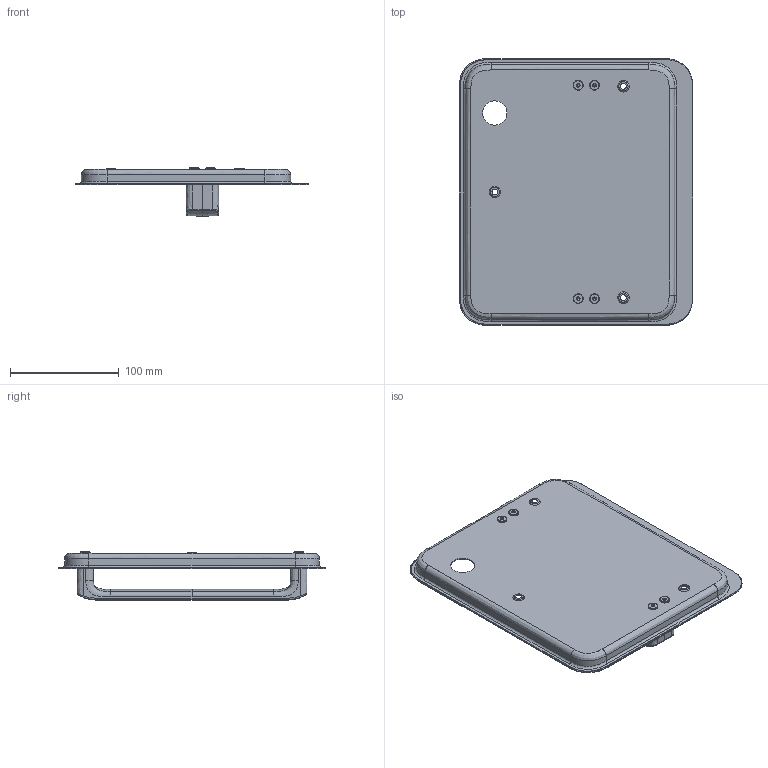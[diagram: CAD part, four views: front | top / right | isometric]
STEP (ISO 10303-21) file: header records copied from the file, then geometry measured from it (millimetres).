
FILE_DESCRIPTION(/* description */ (''),/* implementation_level */ '2;1');
FILE_NAME(/* name */ 'C:\ADSK_DMS_WS\Designs\Vorschläge\Loc Schalen\Heusser Muschel\Heusser-Muschel mit D6\Heusser-Muschel S9.13 mit D6\S9.13.D6.294R..stp',/* time_stamp */ '2025-04-14T08:41:13+02:00',/* author */ ('gm'),/* organization */ (''),/* preprocessor_version */ 'ST-DEVELOPER v17.2',/* originating_system */ 'Autodesk Inventor 2019',/* authorisation */ '');
FILE_SCHEMA (('AUTOMOTIVE_DESIGN { 1 0 10303 214 3 1 1 }'));
Length unit declared in the file: millimetre
Products named in the file (4): S9.13.D6.294R.; D6; M5x10 zu D6; Schale S9.13.R.D6
Assembly tree (6 placements, depth 2):
  S9.13.D6.294R.
    D6
    M5x10 zu D6  x4
    Schale S9.13.R.D6
Bounding box: 214 x 245 x 44.5 mm (x, y, z)
Volume: 141628 mm3; surface area: 142715 mm2
Topology: 6 solids, 6 shells, 394 faces, 1016 edges, 653 vertices
Faces by surface type: bspline 148, plane 127, cylinder 65, cone 50, torus 4
Full cylindrical faces by diameter (mm): 4.134 x4, 5 x4, 5.5 x4, 9 x4, 22.3 x1
Entity records: 20925 total; most frequent: CARTESIAN_POINT 13995, ORIENTED_EDGE 1608, DIRECTION 945, EDGE_CURVE 804, VERTEX_POINT 518, LINE 423, VECTOR 423, EDGE_LOOP 350
